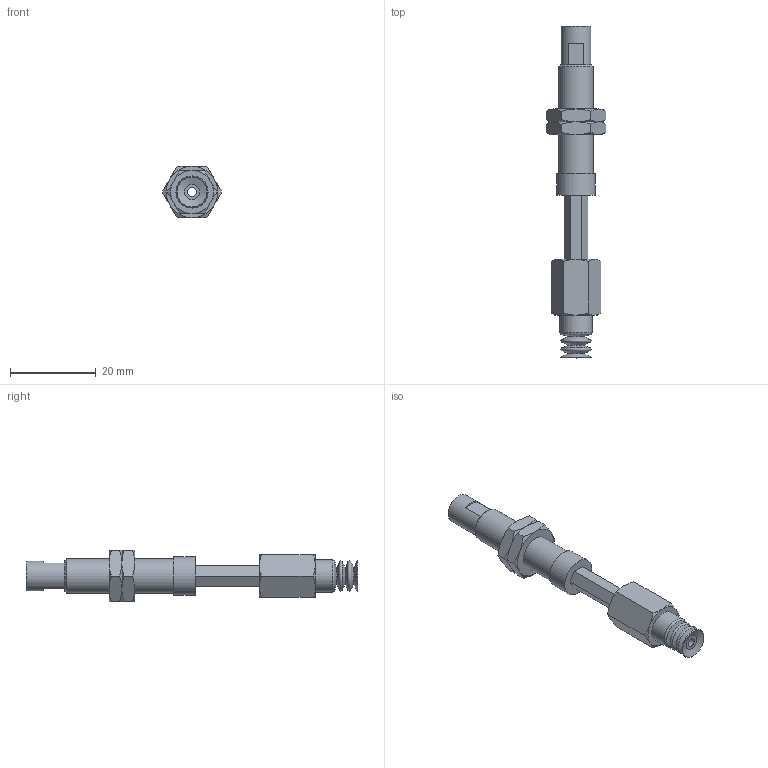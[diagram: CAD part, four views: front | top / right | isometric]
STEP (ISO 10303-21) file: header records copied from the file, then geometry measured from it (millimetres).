
FILE_DESCRIPTION(('STEP AP203'),'1');
FILE_NAME('.stp','2025-08-27T01:31:04',(' '),(' '),'Spatial InterOp 3D',' ',' ');
FILE_SCHEMA(('CONFIG_CONTROL_DESIGN'));
Length unit declared in the file: millimetre
Products named in the file (6): BNABPCTH-7-15-※; ADAPTER; NAPATH-10A-15--M; Nut napc_h-7-15; NAPCTH-7-15-FBODY; BPCG-7-※
Assembly tree (6 placements, depth 2):
  BNABPCTH-7-15-※
    ADAPTER
    NAPATH-10A-15--M
    Nut napc_h-7-15  x2
    NAPCTH-7-15-FBODY
    BPCG-7-※
Bounding box: 13.86 x 77.5 x 12 mm (x, y, z)
Volume: 3883.3 mm3; surface area: 4733.7 mm2
Topology: 6 solids, 6 shells, 130 faces, 274 edges, 163 vertices
Faces by surface type: plane 53, cone 50, cylinder 14, torus 13
Full cylindrical faces by diameter (mm): 2 x3, 4 x2, 4.134 x1, 6 x2, 7 x1, 7.188 x2, 7.5 x1, 8 x1, 9 x1
Entity records: 3120 total; most frequent: CARTESIAN_POINT 718, DIRECTION 442, ORIENTED_EDGE 368, AXIS2_PLACEMENT_3D 192, EDGE_CURVE 184, EDGE_LOOP 162, FACE_OUTER_BOUND 133, VERTEX_POINT 132
